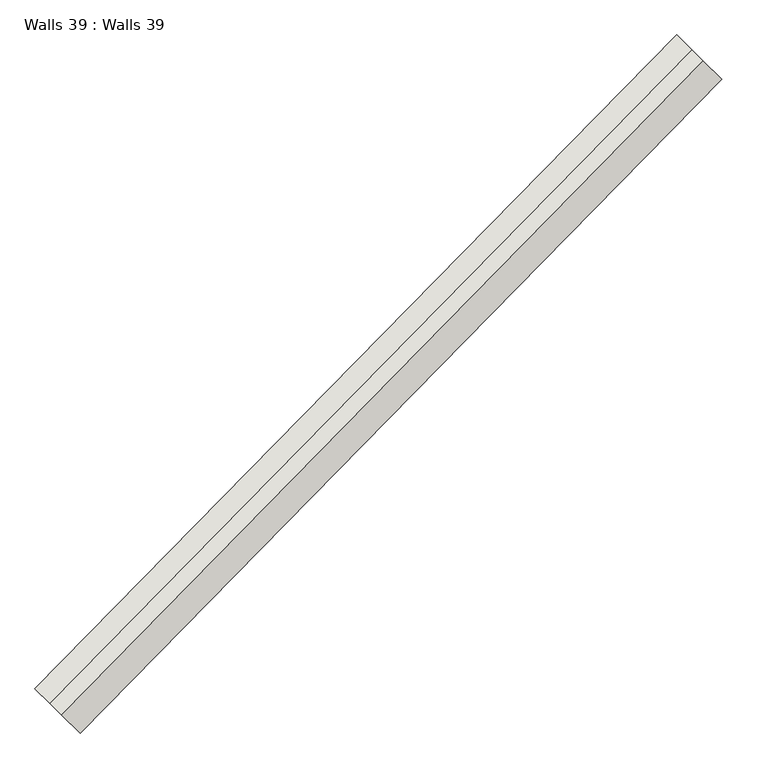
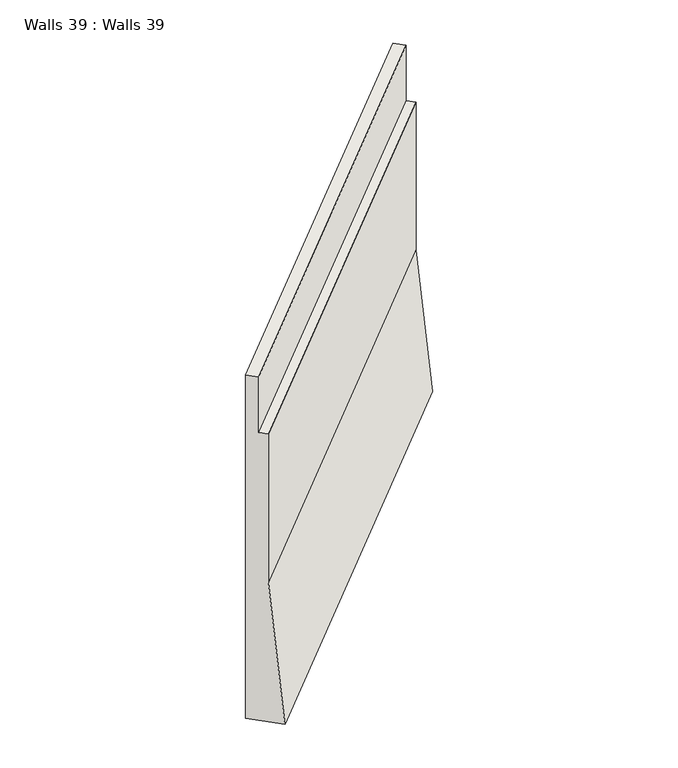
"""IFC4 building model written with IfcOpenShell, lengths in millimetres: wall geometry, Walls 39 : Walls 39."""

from ifc_helpers import new_model, si_unit, origin, place, context, project, spatial, faceted_brep, source, transform, mapped, element, save


def walls_39_walls_39_fbd6d369(model_context):
    return source(origin(), model_context, "Body", "Brep", [
        faceted_brep([(-154288.7765491, -312570.6678128, 642760.0), (-154288.7765491, -312570.6678128, 636580.0), (-153860.5336019, -312990.9178294, 636580.0), (-154038.9694379, -312815.812405, 639080.0), (-154038.9694379, -312815.812405, 641760.0), (-154146.0296284, -312710.7504369, 641760.0), (-154146.0296284, -312710.7504369, 642760.0), (-148195.1690665, -306361.1631737, 642830.0), (-148052.4221458, -306501.2457978, 642830.0), (-148052.4221458, -306501.2457978, 641830.0), (-147945.3619552, -306606.3077659, 641830.0), (-147945.3619552, -306606.3077659, 639170.0), (-147766.9261193, -306781.4131903, 636670.0), (-148195.1690665, -306361.1631737, 636670.0)], [[[0, 1, 2, 3, 4, 5, 6]], [[7, 8, 9, 10, 11, 12, 13]], [[7, 13, 1, 0]], [[13, 12, 2, 1]], [[12, 11, 3, 2]], [[11, 10, 4, 3]], [[10, 9, 5, 4]], [[9, 8, 6, 5]], [[8, 7, 0, 6]]]),
    ])


if __name__ == "__main__":
    model = new_model("IFC4")
    model_context = context("Model", 3, world=origin())
    ifc_project = project(units=[si_unit("LENGTHUNIT", "METRE", prefix="MILLI")], contexts=[model_context])
    site = spatial("IfcSite", under=ifc_project)
    building = spatial("IfcBuilding", under=site)
    placement = place(None, origin())
    walls_39_walls_39_shape = walls_39_walls_39_fbd6d369(model_context)
    element("IfcWall", 1, ObjectType="Walls 39 : Walls 39", at=placement, inside=building, context=model_context, shape_type="MappedRepresentation", body=[
        mapped(walls_39_walls_39_shape, transform((0.0, 0.0, 0.0), x_axis=(1.0, 0.0, 0.0), y_axis=(0.0, 1.0, 0.0), z_axis=(0.0, 0.0, 1.0))),
    ])
    save(model, "model.ifc")
